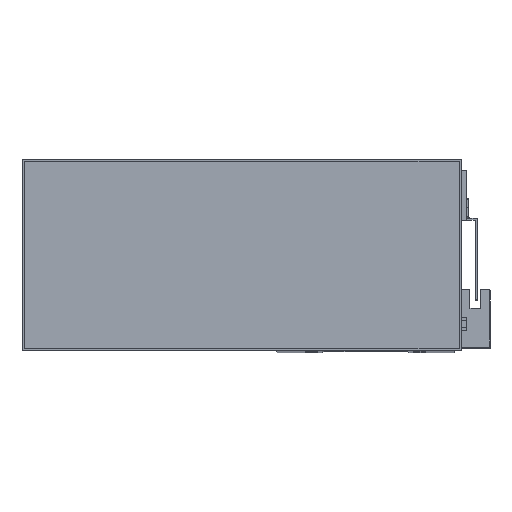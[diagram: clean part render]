
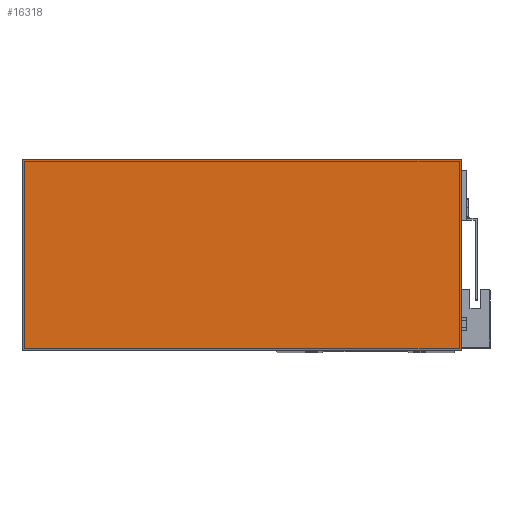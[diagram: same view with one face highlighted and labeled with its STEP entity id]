
A CAD part, top view. The second image highlights one B-rep face of the part: STEP entity #16318.
In plain terms, the highlighted planar face has unit normal (0, 0, 1).
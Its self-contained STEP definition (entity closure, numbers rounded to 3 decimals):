
#903 = EDGE_CURVE ( 'NONE', #20150, #13471, #18829, .T. ) ;
#1730 = VECTOR ( 'NONE', #10343, 1000. ) ;
#2243 = ORIENTED_EDGE ( 'NONE', *, *, #18178, .T. ) ;
#2267 = ORIENTED_EDGE ( 'NONE', *, *, #14159, .T. ) ;
#2366 = ORIENTED_EDGE ( 'NONE', *, *, #903, .T. ) ;
#2695 = LINE ( 'NONE', #9262, #2899 ) ;
#2841 = ORIENTED_EDGE ( 'NONE', *, *, #14260, .T. ) ;
#2899 = VECTOR ( 'NONE', #19626, 1000. ) ;
#3607 = LINE ( 'NONE', #21638, #3645 ) ;
#3645 = VECTOR ( 'NONE', #16500, 1000. ) ;
#5387 = EDGE_LOOP ( 'NONE', ( #2366, #2841, #2267, #2243 ) ) ;
#6451 = AXIS2_PLACEMENT_3D ( 'NONE', #6462, #18438, #8207 ) ;
#6462 = CARTESIAN_POINT ( 'NONE',  ( 0., 0., 46. ) ) ;
#6964 = CARTESIAN_POINT ( 'NONE',  ( -1., -1., 46. ) ) ;
#8207 = DIRECTION ( 'NONE',  ( 1., 0., 0. ) ) ;
#9262 = CARTESIAN_POINT ( 'NONE',  ( 87., 201., 46. ) ) ;
#9291 = CARTESIAN_POINT ( 'NONE',  ( -1., 201., 46. ) ) ;
#10343 = DIRECTION ( 'NONE',  ( -1., 0., 0. ) ) ;
#11116 = CARTESIAN_POINT ( 'NONE',  ( 87., 201., 46. ) ) ;
#12445 = CARTESIAN_POINT ( 'NONE',  ( 87., -1., 46. ) ) ;
#13471 = VERTEX_POINT ( 'NONE', #6964 ) ;
#14159 = EDGE_CURVE ( 'NONE', #18300, #21253, #2695, .T. ) ;
#14260 = EDGE_CURVE ( 'NONE', #13471, #18300, #3607, .T. ) ;
#16318 = ADVANCED_FACE ( 'NONE', ( #16818 ), #20130, .T. ) ;
#16500 = DIRECTION ( 'NONE',  ( 1., 0., 0. ) ) ;
#16643 = LINE ( 'NONE', #18901, #1730 ) ;
#16818 = FACE_OUTER_BOUND ( 'NONE', #5387, .T. ) ;
#18178 = EDGE_CURVE ( 'NONE', #21253, #20150, #16643, .T. ) ;
#18300 = VERTEX_POINT ( 'NONE', #12445 ) ;
#18438 = DIRECTION ( 'NONE',  ( 0., 0., 1. ) ) ;
#18644 = VECTOR ( 'NONE', #20494, 1000. ) ;
#18829 = LINE ( 'NONE', #20414, #18644 ) ;
#18901 = CARTESIAN_POINT ( 'NONE',  ( -1., 201., 46. ) ) ;
#19626 = DIRECTION ( 'NONE',  ( 0., 1., 0. ) ) ;
#20130 = PLANE ( 'NONE',  #6451 ) ;
#20150 = VERTEX_POINT ( 'NONE', #9291 ) ;
#20414 = CARTESIAN_POINT ( 'NONE',  ( -1., 201., 46. ) ) ;
#20494 = DIRECTION ( 'NONE',  ( 0., -1., 0. ) ) ;
#21253 = VERTEX_POINT ( 'NONE', #11116 ) ;
#21638 = CARTESIAN_POINT ( 'NONE',  ( -1., -1., 46. ) ) ;
